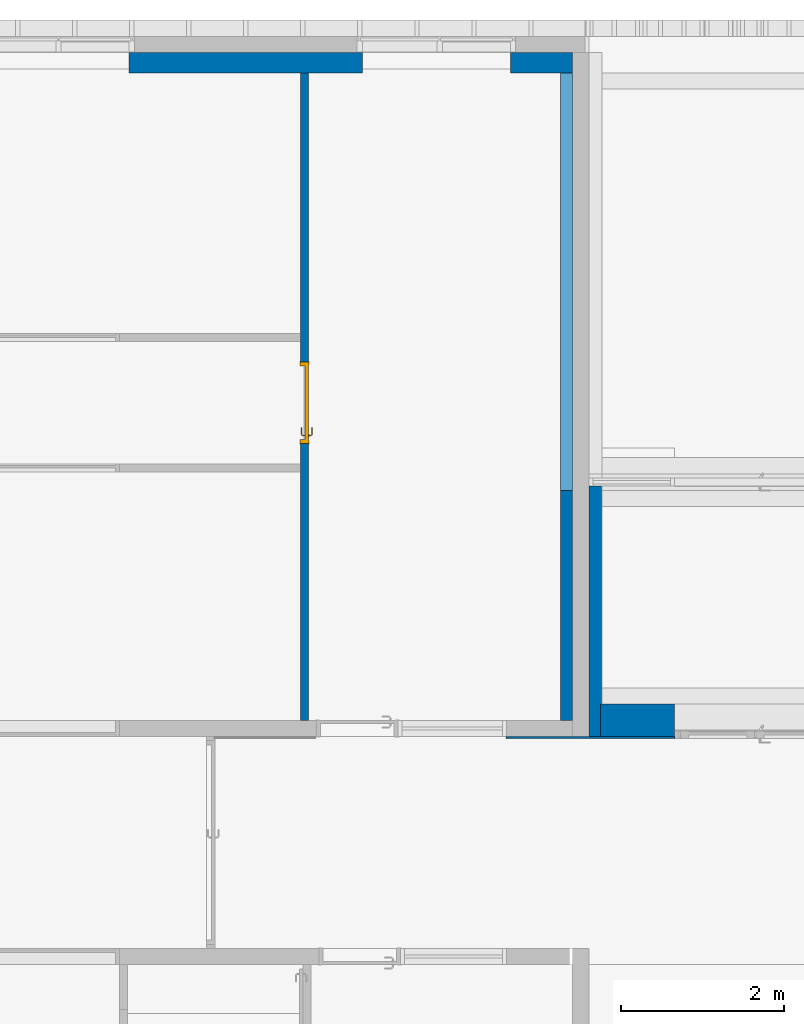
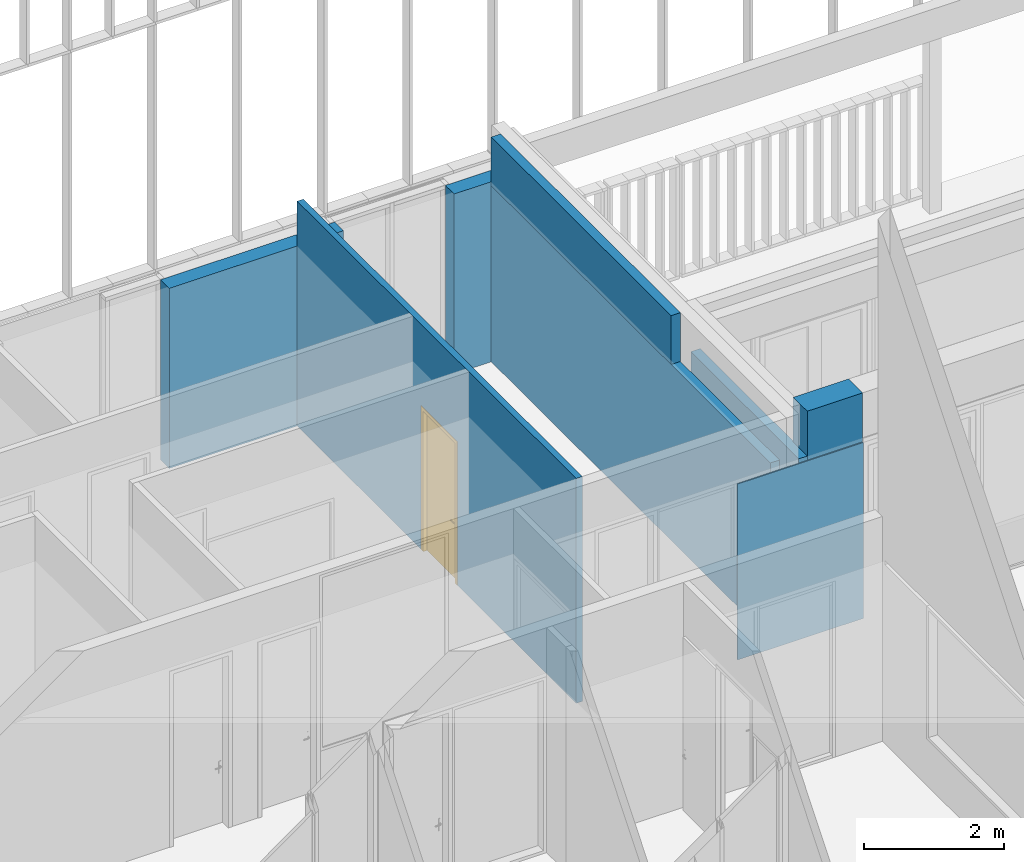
# One storey, part 157 of 240: 8 walls, 1 door, 2 openings.
"""IFC2X3 building model written with IfcOpenShell, lengths in centimetres."""

import ifcopenshell
import ifcopenshell.guid

model = None  # the IFC model being written
_history = None  # IfcOwnerHistory: only IFC2X3 demands one
_inside = {}  # id of a spatial element -> (the spatial element, [elements in it])
_under = {}  # id of a project, library or spatial element -> (it, [spatial elements below it])
_declared = {}  # id of a project -> (the project, [libraries it declares])
_typed = {}  # id of a type object -> (the type object, [elements of that type])
_made_of = {}  # id of a material, layer set ... -> (it, [elements and type objects made of it])


def new_model(schema):
    """Start an empty IFC model of exactly this schema.

    Asked for "IFC4X3", IfcOpenShell would pick the latest addendum, in which some entities
    have other attributes; the version numbers below select the first issue.
    IFC2X3 requires an IfcOwnerHistory on every rooted entity: one is made here for all.
    """
    global model, _history
    if schema == "IFC4X3":
        model = ifcopenshell.file(schema_version=(4, 3, 0, 0))
    else:
        model = ifcopenshell.file(schema=schema)
    _inside.clear()
    _under.clear()
    _declared.clear()
    _typed.clear()
    _made_of.clear()
    _history = None
    if model.schema == "IFC2X3":
        org = make("IfcOrganization", Name="unknown")
        user = make(
            "IfcPersonAndOrganization",
            ThePerson=make("IfcPerson", FamilyName="unknown"),
            TheOrganization=org,
        )
        app = make(
            "IfcApplication",
            ApplicationDeveloper=org,
            Version="unknown",
            ApplicationFullName="unknown",
            ApplicationIdentifier="unknown",
        )
        _history = make(
            "IfcOwnerHistory",
            OwningUser=user,
            OwningApplication=app,
            ChangeAction="ADDED",
            CreationDate=0,
        )
    return model


def make(cls, **values):
    """One entity of the class cls with the attributes given. An attribute that is None is left unset."""
    return model.create_entity(
        cls, **{name: value for name, value in values.items() if value is not None}
    )


def entity(cls, *values):
    """Any entity or typed value of the class cls, its attributes in the order of the schema. None: left unset."""
    e = model.create_entity(cls)
    for i, value in enumerate(values):
        if value is not None:
            e[i] = value
    return e


def rooted(cls, **values):
    """An entity with a GlobalId (a new one), such as an element, a storey or a relation."""
    return make(cls, GlobalId=ifcopenshell.guid.new(), OwnerHistory=_history, **values)


def si_unit(unit_type, name, prefix=None):
    """IfcSIUnit, for example si_unit("LENGTHUNIT", "METRE", prefix="MILLI")."""
    return make("IfcSIUnit", UnitType=unit_type, Prefix=prefix, Name=name)


def converted_unit(unit_type, name, factor, base, dimensions=None, offset=None):
    """IfcConversionBasedUnit, such as the inch: factor (a typed value) times the base unit."""
    return make(
        "IfcConversionBasedUnit"
        if offset is None
        else "IfcConversionBasedUnitWithOffset",
        ConversionOffset=offset,
        Dimensions=None
        if dimensions is None
        else entity("IfcDimensionalExponents", *dimensions),
        UnitType=unit_type,
        Name=name,
        ConversionFactor=make(
            "IfcMeasureWithUnit", ValueComponent=factor, UnitComponent=base
        ),
    )


def derived_unit(unit_type, elements):
    """IfcDerivedUnit: a product of units, each with its exponent."""
    return make(
        "IfcDerivedUnit",
        Elements=[
            make("IfcDerivedUnitElement", Unit=unit, Exponent=power)
            for unit, power in elements
        ],
        UnitType=unit_type,
    )


def assignment(units):
    """IfcUnitAssignment: the units of a project."""
    return None if units is None else make("IfcUnitAssignment", Units=units)


def point(xyz):
    """IfcCartesianPoint."""
    return None if xyz is None else make("IfcCartesianPoint", Coordinates=xyz)


def direction(xyz):
    """IfcDirection."""
    return None if xyz is None else make("IfcDirection", DirectionRatios=xyz)


def frame(location, z_axis=None, x_axis=None):
    """IfcAxis2Placement3D, a coordinate frame: its origin and axes. An axis left out is left unset."""
    return make(
        "IfcAxis2Placement3D",
        Location=point(location),
        Axis=direction(z_axis),
        RefDirection=direction(x_axis),
    )


def frame_2d(location, x_axis=None):
    """IfcAxis2Placement2D, a coordinate frame in the plane: its origin and x axis."""
    return make(
        "IfcAxis2Placement2D", Location=point(location), RefDirection=direction(x_axis)
    )


def origin():
    """The frame at (0, 0, 0) with its axes left unset."""
    return frame((0.0, 0.0, 0.0))


def place(relative_to, where):
    """IfcLocalPlacement: puts the frame where relative to a parent placement (None: the world)."""
    return make(
        "IfcLocalPlacement", PlacementRelTo=relative_to, RelativePlacement=where
    )


def context(
    kind, dimensions, precision=None, world=None, true_north=None, identifier=None
):
    """IfcGeometricRepresentationContext, for example the 3D "Model" context."""
    return make(
        "IfcGeometricRepresentationContext",
        ContextIdentifier=identifier,
        ContextType=kind,
        CoordinateSpaceDimension=dimensions,
        Precision=precision,
        WorldCoordinateSystem=world,
        TrueNorth=true_north,
    )


def subcontext(parent, identifier, kind, view, scale=None):
    """IfcGeometricRepresentationSubContext, for example "Body" below "Model"."""
    return make(
        "IfcGeometricRepresentationSubContext",
        ContextIdentifier=identifier,
        ContextType=kind,
        ParentContext=parent,
        TargetScale=scale,
        TargetView=view,
    )


def project(units=None, contexts=None):
    """IfcProject with its units and contexts."""
    return rooted(
        "IfcProject",
        Name="project",
        RepresentationContexts=contexts,
        UnitsInContext=assignment(units),
    )


def spatial(cls, under=None, at=None, **own):
    """A site, building, storey or space (cls), placed at a placement, below another one or the project."""
    s = rooted(cls, ObjectPlacement=at, **own)
    if under is not None:
        _under.setdefault(under.id(), (under, []))[1].append(s)
    return s


def polyline(points):
    """IfcPolyline through the points."""
    return make("IfcPolyline", Points=[point(p) for p in points])


def profile(cls, at=None, kind="AREA", **sizes):
    """A parametric profile (cls). Its sizes go by their IFC names, for example OverallWidth=200.0."""
    return make(cls, ProfileType=kind, Position=at, **sizes)


def rectangle(**sizes):
    """IfcRectangleProfileDef."""
    return profile("IfcRectangleProfileDef", **sizes)


def extrude(swept, where, along, depth):
    """IfcExtrudedAreaSolid: the profile swept, set in the frame where, extruded along a direction by depth."""
    return make(
        "IfcExtrudedAreaSolid",
        SweptArea=swept,
        Position=where,
        ExtrudedDirection=direction(along),
        Depth=depth,
    )


def clip(a, b, op="DIFFERENCE"):
    """IfcBooleanClippingResult: the solid a cut by the half space b."""
    return make(
        "IfcBooleanClippingResult", Operator=op, FirstOperand=a, SecondOperand=b
    )


def bounded_halfspace(plane, agree, where, boundary):
    """IfcPolygonalBoundedHalfSpace: a half space limited to a polygon's prism."""
    return make(
        "IfcPolygonalBoundedHalfSpace",
        BaseSurface=make("IfcPlane", Position=plane),
        AgreementFlag=agree,
        Position=where,
        PolygonalBoundary=boundary,
    )


def faces_of(points, faces, orient=None, outer=None):
    """IfcFace entities. A face is a list of loops; a loop is a list of indices into points, from 0.

    orient and outer hold one flag for each loop. By default every Orientation is true, the
    first loop of a face is its IfcFaceOuterBound and the others are IfcFaceBound.
    """
    made = []
    for i, loops in enumerate(faces):
        bounds = []
        for j, loop in enumerate(loops):
            is_outer = j == 0 if outer is None else outer[i][j]
            bounds.append(
                make(
                    "IfcFaceOuterBound" if is_outer else "IfcFaceBound",
                    Bound=make("IfcPolyLoop", Polygon=[points[k] for k in loop]),
                    Orientation=True if orient is None else orient[i][j],
                )
            )
        made.append(make("IfcFace", Bounds=bounds))
    return made


def faceted_brep(points, faces, orient=None, outer=None, voids=None):
    """IfcFacetedBrep: a solid bounded by flat faces; with voids (closed shells), ...WithVoids."""
    shared = [point(p) for p in points]
    hull = make("IfcClosedShell", CfsFaces=faces_of(shared, faces, orient, outer))
    if voids is None:
        return make("IfcFacetedBrep", Outer=hull)
    return make(
        "IfcFacetedBrepWithVoids",
        Outer=hull,
        Voids=[
            make(cls, CfsFaces=faces_of(shared, fs, o, b)) for cls, fs, o, b in voids
        ],
    )


def shape(context_of_items, identifier, shape_type, items):
    """IfcShapeRepresentation: the items that make up one representation, for example the "Body"."""
    return make(
        "IfcShapeRepresentation",
        ContextOfItems=context_of_items,
        RepresentationIdentifier=identifier,
        RepresentationType=shape_type,
        Items=items,
    )


def source(mapping_origin, context_of_items, identifier, shape_type, items):
    """IfcRepresentationMap: a shape defined once, which mapped items show again and again."""
    return make(
        "IfcRepresentationMap",
        MappingOrigin=mapping_origin,
        MappedRepresentation=shape(context_of_items, identifier, shape_type, items),
    )


def transform(
    local_origin,
    x_axis=None,
    y_axis=None,
    z_axis=None,
    scale=None,
    scale2=None,
    scale3=None,
    uniform=True,
):
    """IfcCartesianTransformationOperator3D, or its non-uniform kind. x_axis, y_axis, z_axis: its Axis1, 2, 3."""
    if uniform:
        return make(
            "IfcCartesianTransformationOperator3D",
            Axis1=direction(x_axis),
            Axis2=direction(y_axis),
            LocalOrigin=point(local_origin),
            Scale=scale,
            Axis3=direction(z_axis),
        )
    return make(
        "IfcCartesianTransformationOperator3DnonUniform",
        Axis1=direction(x_axis),
        Axis2=direction(y_axis),
        LocalOrigin=point(local_origin),
        Scale=scale,
        Axis3=direction(z_axis),
        Scale2=scale2,
        Scale3=scale3,
    )


def mapped(mapping_source, mapping_target):
    """IfcMappedItem: shows the shape of a source again, moved by a transform."""
    return make(
        "IfcMappedItem", MappingSource=mapping_source, MappingTarget=mapping_target
    )


def material(Name=None, Category=None):
    """IfcMaterial."""
    return make("IfcMaterial", Name=Name, Category=Category)


def material_list(materials):
    """IfcMaterialList."""
    return make("IfcMaterialList", Materials=materials)


def layer(
    of_material, thickness, ventilated=None, Name=None, Category=None, Priority=None
):
    """IfcMaterialLayer: one layer of a wall or slab, of a material (None: an air gap)."""
    return make(
        "IfcMaterialLayer",
        Material=of_material,
        LayerThickness=thickness,
        IsVentilated=ventilated,
        Name=Name,
        Category=Category,
        Priority=Priority,
    )


def layer_set(layers, Name=None):
    """IfcMaterialLayerSet."""
    return make("IfcMaterialLayerSet", MaterialLayers=layers, LayerSetName=Name)


def layer_usage(for_layer_set, set_direction, sense, offset, extent=None):
    """IfcMaterialLayerSetUsage: how a layer set lies in its element."""
    return make(
        "IfcMaterialLayerSetUsage",
        ForLayerSet=for_layer_set,
        LayerSetDirection=set_direction,
        DirectionSense=sense,
        OffsetFromReferenceLine=offset,
        ReferenceExtent=extent,
    )


def made_of(thing, what):
    """Note that an element or type object is made of a material, layer set ...; save() writes the relation."""
    if what is not None:
        _made_of.setdefault(what.id(), (what, []))[1].append(thing)
    return thing


def type_object(cls, material=None, **own):
    """A type object (cls), such as IfcWallType, which elements share."""
    return made_of(rooted(cls, **own), material)


def type_shapes(of_type, sources):
    """Give a type object the sources (RepresentationMaps) that its elements show as mapped items."""
    of_type.RepresentationMaps = sources


def element(
    cls,
    number,
    at=None,
    inside=None,
    cuts=None,
    type_object=None,
    material=None,
    context=None,
    identifier="Body",
    shape_type=None,
    held_by="IfcProductDefinitionShape",
    body=None,
    shapes=None,
    **own,
):
    """One element of the class cls, such as IfcWall. Its Tag is "e" and its number.

    at: its placement. inside: the storey or other place that contains it. cuts: it is an
    opening in that element (IfcRelVoidsElement). A single representation is given by context,
    identifier, shape_type and body (its items); several are given by shapes. held_by: the class
    of the entity that holds the representations. save() writes the other relations.
    """
    e = rooted(cls, Tag="e%d" % number, ObjectPlacement=at, **own)
    if body is not None:
        shapes = [shape(context, identifier, shape_type, body)]
    if shapes is not None:
        e.Representation = make(held_by, Representations=shapes)
    if inside is not None:
        _inside.setdefault(inside.id(), (inside, []))[1].append(e)
    if cuts is not None:
        rooted(
            "IfcRelVoidsElement", RelatingBuildingElement=cuts, RelatedOpeningElement=e
        )
    if type_object is not None:
        _typed.setdefault(type_object.id(), (type_object, []))[1].append(e)
    return made_of(e, material)


def fill(opening, filler):
    """IfcRelFillsElement: the door or window that sits in an opening."""
    return rooted(
        "IfcRelFillsElement",
        RelatingOpeningElement=opening,
        RelatedBuildingElement=filler,
    )


def aggregate(whole, parts):
    """IfcRelAggregates: a whole, such as a stair, and the parts it consists of."""
    return rooted("IfcRelAggregates", RelatingObject=whole, RelatedObjects=parts)


def save(model, path):
    """Write the relations noted so far, then the file.

    IfcRelAggregates (storeys below a building ...), IfcRelContainedInSpatialStructure (elements
    in a storey), IfcRelDefinesByType, IfcRelAssociatesMaterial and IfcRelDeclares: one each for
    every whole, place, type object, material and project.
    """
    for whole, parts in _under.values():
        aggregate(whole, parts)
    for where, things in _inside.values():
        rooted(
            "IfcRelContainedInSpatialStructure",
            RelatedElements=things,
            RelatingStructure=where,
        )
    for kind, things in _typed.values():
        rooted("IfcRelDefinesByType", RelatedObjects=things, RelatingType=kind)
    for what, things in _made_of.values():
        rooted("IfcRelAssociatesMaterial", RelatedObjects=things, RelatingMaterial=what)
    for by, libraries in _declared.values():
        rooted("IfcRelDeclares", RelatingContext=by, RelatedDefinitions=libraries)
    model.write(path)


model = new_model("IFC2X3")

# Units and contexts
model_context = context("Model", 3, precision=0.001, world=origin(), true_north=direction((6.12303176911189e-17, 1.0)))
body_context = subcontext(model_context, "Body", "Model", "MODEL_VIEW")
ifc_project = project(units=[si_unit("LENGTHUNIT", "METRE", prefix="CENTI"), si_unit("AREAUNIT", "SQUARE_METRE"), si_unit("VOLUMEUNIT", "CUBIC_METRE"), converted_unit("PLANEANGLEUNIT", "DEGREE", entity("IfcRatioMeasure", 0.0174532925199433), si_unit("PLANEANGLEUNIT", "RADIAN"), dimensions=[0, 0, 0, 0, 0, 0, 0]), si_unit("MASSUNIT", "GRAM", prefix="KILO"), derived_unit("MASSDENSITYUNIT", [(si_unit("MASSUNIT", "GRAM", prefix="KILO"), 1), (si_unit("LENGTHUNIT", "METRE"), -3)]), si_unit("TIMEUNIT", "SECOND"), si_unit("FREQUENCYUNIT", "HERTZ"), si_unit("THERMODYNAMICTEMPERATUREUNIT", "DEGREE_CELSIUS"), derived_unit("THERMALTRANSMITTANCEUNIT", [(si_unit("MASSUNIT", "GRAM", prefix="KILO"), 1), (si_unit("THERMODYNAMICTEMPERATUREUNIT", "KELVIN"), -1), (si_unit("TIMEUNIT", "SECOND"), -3)]), derived_unit("VOLUMETRICFLOWRATEUNIT", [(si_unit("LENGTHUNIT", "METRE"), 3), (si_unit("TIMEUNIT", "SECOND"), -1)]), si_unit("ELECTRICCURRENTUNIT", "AMPERE"), si_unit("ELECTRICVOLTAGEUNIT", "VOLT"), si_unit("POWERUNIT", "WATT"), si_unit("FORCEUNIT", "NEWTON", prefix="KILO"), si_unit("ILLUMINANCEUNIT", "LUX"), si_unit("LUMINOUSFLUXUNIT", "LUMEN"), si_unit("LUMINOUSINTENSITYUNIT", "CANDELA"), derived_unit("USERDEFINED", [(si_unit("MASSUNIT", "GRAM", prefix="KILO"), -1), (si_unit("LENGTHUNIT", "METRE"), -2), (si_unit("TIMEUNIT", "SECOND"), 3), (si_unit("LUMINOUSFLUXUNIT", "LUMEN"), 1)]), derived_unit("LINEARVELOCITYUNIT", [(si_unit("LENGTHUNIT", "METRE"), 1), (si_unit("TIMEUNIT", "SECOND"), -1)]), si_unit("PRESSUREUNIT", "PASCAL"), derived_unit("USERDEFINED", [(si_unit("LENGTHUNIT", "METRE"), -2), (si_unit("MASSUNIT", "GRAM", prefix="KILO"), 1), (si_unit("TIMEUNIT", "SECOND"), -2)])], contexts=[model_context])

# Site, building, storey
site_placement = place(None, frame((-2781.94577612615, 7442.24238424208, 0.0)))
site = spatial("IfcSite", under=ifc_project, at=site_placement, Name="Default", CompositionType="ELEMENT")
building_placement = place(site_placement, origin())
building = spatial("IfcBuilding", under=site, at=building_placement, CompositionType="ELEMENT")
storey_placement = place(building_placement, origin())
storey = spatial("IfcBuildingStorey", under=building, at=storey_placement, Name="N00 - COO", CompositionType="ELEMENT", Elevation=0.0)

# Walls
ifc_material_1 = material(Name="01 - Maçonnerie")
ifc_layer_1 = layer(ifc_material_1, 25.0)
ifc_layer_set_1 = layer_set([ifc_layer_1], Name="Mur de base:04 - Structure - béton - 25cm")
ifc_layer_usage_1 = layer_usage(ifc_layer_set_1, "AXIS2", "NEGATIVE", 12.5)
wall_type_1 = type_object("IfcWallType", Name="Mur de base:04 - Structure - béton - 25cm", PredefinedType="STANDARD", material=ifc_layer_set_1)
wall_1_placement = place(building_placement, frame((-5046.24987760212, -2.49999999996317, 0.0), z_axis=(0.0, 0.0, 1.0), x_axis=(-1.0, 0.0, 0.0)))
element("IfcWallStandardCase", 1, at=wall_1_placement, inside=storey, type_object=wall_type_1, material=ifc_layer_usage_1, Name="Mur de base:04 - Structure - béton - 25cm", ObjectType="Mur de base:04 - Structure - béton - 25cm", context=body_context, shape_type="SweptSolid", body=[
    extrude(rectangle(XDim=286.500000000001, YDim=25.0, at=frame_2d((143.25, 0.0), x_axis=(-1.0, 0.0))), origin(), (0.0, 0.0, 1.0), 313.0),
])
ifc_layer_usage_2 = layer_usage(ifc_layer_set_1, "AXIS2", "NEGATIVE", 12.5)
wall_2_placement = place(building_placement, frame((-4787.99987760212, -2.499999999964, 0.0), z_axis=(0.0, 0.0, 1.0), x_axis=(-1.0, 0.0, 0.0)))
element("IfcWallStandardCase", 2, at=wall_2_placement, inside=storey, type_object=wall_type_1, material=ifc_layer_usage_2, Name="Mur de base:04 - Structure - béton - 25cm", ObjectType="Mur de base:04 - Structure - béton - 25cm", context=body_context, shape_type="SweptSolid", body=[
    extrude(rectangle(XDim=76.3, YDim=25.0, at=frame_2d((38.15, 1.77635683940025e-15), x_axis=(-1.0, 0.0))), origin(), (0.0, 0.0, 1.0), 313.0),
])
ifc_material_2 = material(Name="00 - Isolant")
ifc_layer_2 = layer(ifc_material_2, 14.0)
ifc_material_3 = material(Name="01 - Enduit/Plâtre")
ifc_layer_3 = layer(ifc_material_3, 1.3)
ifc_layer_set_2 = layer_set([ifc_layer_2, ifc_layer_3], Name="Mur de base:04 - Parement -  isolant 14 cm + BA13")
ifc_layer_usage_3 = layer_usage(ifc_layer_set_2, "AXIS2", "POSITIVE", -7.65)
wall_type_2 = type_object("IfcWallType", Name="Mur de base:04 - Parement -  isolant 14 cm + BA13", PredefinedType="STANDARD", material=ifc_layer_set_2)
wall_3_placement = place(building_placement, frame((-4795.64987760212, -527.548500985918, 306.0), z_axis=(0.0, 0.0, 1.0), x_axis=(0.0, 1.0, 0.0)))
element("IfcWallStandardCase", 3, at=wall_3_placement, inside=storey, type_object=wall_type_2, material=ifc_layer_usage_3, Name="Mur de base:04 - Parement -  isolant 14 cm + BA13", ObjectType="Mur de base:04 - Parement -  isolant 14 cm + BA13", context=body_context, shape_type="SweptSolid", body=[
    extrude(rectangle(XDim=512.548500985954, YDim=15.3, at=frame_2d((256.274250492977, 6.66133814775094e-15), x_axis=(-1.0, 0.0))), origin(), (0.0, 0.0, 1.0), 85.0000000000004),
])

# Wall, opening
ifc_layer_4 = layer(ifc_material_1, 40.0)
ifc_layer_set_3 = layer_set([ifc_layer_4], Name="Mur de base:04 - Structure - Béton - 40")
ifc_layer_usage_4 = layer_usage(ifc_layer_set_3, "AXIS2", "NEGATIVE", 20.0)
wall_type_3 = type_object("IfcWallType", Name="Mur de base:04 - Structure - Béton - 40", PredefinedType="STANDARD", material=ifc_layer_set_3)
wall_4_placement = place(storey_placement, frame((-4662.75692494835, -810.048500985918, 0.0), z_axis=(0.0, 0.0, 1.0), x_axis=(-1.0, 0.0, 0.0)))
wall_4 = element("IfcWallStandardCase", 4, at=wall_4_placement, inside=storey, type_object=wall_type_3, material=ifc_layer_usage_4, Name="Mur de base:04 - Structure - Béton - 40", ObjectType="Mur de base:04 - Structure - Béton - 40", context=body_context, shape_type="Clipping", body=[
    clip(extrude(rectangle(XDim=91.2429526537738, YDim=40.0, at=frame_2d((45.6214763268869, 0.0), x_axis=(-1.0, 0.0))), origin(), (0.0, 0.0, 1.0), 391.0), bounded_halfspace(frame((0.0, -20.0, 391.0), z_axis=(0.0, 0.0, -1.0), x_axis=(0.0, -1.0, 0.0)), True, frame((0.0, -20.0, 391.0)), polyline([(0.0, 0.0), (91.2429526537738, 0.0), (91.2429526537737, 40.0), (0.0, 40.0), (0.0, 0.0)]))),
])
opening_1_placement = place(wall_4_placement, origin())
element("IfcOpeningElement", 5, at=opening_1_placement, cuts=wall_4, Name="Mur de base:04 - Structure - Béton - 40", ObjectType="Opening", context=body_context, shape_type="SweptSolid", body=[
    extrude(rectangle(XDim=321.0, YDim=192.75704526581, at=frame_2d((0.0, 4.33431068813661e-13), x_axis=(1.0, 0.0))), frame((-96.3785226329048, 11.8999999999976, 145.5), z_axis=(0.0, 1.0, 0.0), x_axis=(0.0, 0.0, -1.0)), (0.0, 0.0, 1.0), 61.1877456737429),
])

# Wall, opening, door
ifc_layer_5 = layer(ifc_material_3, 1.3)
ifc_layer_6 = layer(ifc_material_2, 7.4)
ifc_layer_7 = layer(ifc_material_3, 1.3)
ifc_layer_set_4 = layer_set([ifc_layer_5, ifc_layer_6, ifc_layer_7], Name="Mur de base:06 - cloisons - Ba13 10cm")
ifc_layer_usage_5 = layer_usage(ifc_layer_set_4, "AXIS2", "NEGATIVE", 5.0)
wall_type_4 = type_object("IfcWallType", Name="Mur de base:06 - cloisons - Ba13 10cm", PredefinedType="STANDARD", material=ifc_layer_set_4)
wall_5_placement = place(building_placement, frame((-5117.49987760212, -15.0, 0.0), z_axis=(0.0, 0.0, 1.0), x_axis=(0.0, -1.0, 0.0)))
wall_5 = element("IfcWallStandardCase", 6, at=wall_5_placement, inside=storey, type_object=wall_type_4, material=ifc_layer_usage_5, Name="Mur de base:06 - cloisons - Ba13 10cm", ObjectType="Mur de base:06 - cloisons - Ba13 10cm", context=body_context, shape_type="Clipping", body=[
    clip(extrude(rectangle(XDim=795.048500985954, YDim=9.99999999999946, at=frame_2d((397.524250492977, -2.22044604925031e-15), x_axis=(-1.0, 0.0))), origin(), (0.0, 0.0, 1.0), 391.0), bounded_halfspace(frame((0.0, -5.0, 391.0), z_axis=(0.0, 0.0, -1.0), x_axis=(-1.0, 0.0, 0.0)), True, frame((0.0, -5.0, 391.0)), polyline([(0.0, 0.0), (320.0, 0.0), (330.0, 0.0), (480.0, 0.0), (490.0, 0.0), (795.048500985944, 0.0), (795.048500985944, 10.0), (0.0, 10.0), (0.0, 0.0)]))),
])
opening_2_placement = place(wall_5_placement, frame((355.0, -5.0, 0.0)))
opening_2 = element("IfcOpeningElement", 7, at=opening_2_placement, cuts=wall_5, Name="Int. Simple:PP simple (0.93m x 2.50m):1", ObjectType="Opening", context=body_context, shape_type="SweptSolid", body=[
    extrude(rectangle(XDim=248.500000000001, YDim=99.9999999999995, at=frame_2d((124.250000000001, 49.9999999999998), x_axis=(1.0, 0.0))), frame((0.0, 0.0, 0.0), z_axis=(0.0, 1.0, 0.0), x_axis=(0.0, 0.0, 1.0)), (0.0, 0.0, 1.0), 10.0),
])
ifc_material_4 = material(Name="Finition Peinture - Blanc satiné")
ifc_material_5 = material(Name="Bois - Panneau de porte")
ifc_material_6 = material(Name="Bois - Cadre de porte")
ifc_material_list_1 = material_list([ifc_material_4, ifc_material_5, ifc_material_6])
ifc_material_list_2 = material_list([ifc_material_4, ifc_material_5, ifc_material_6])
door_style = type_object("IfcDoorStyle", Name="PP simple (0.93m x 2.50m)", ConstructionType="NOTDEFINED", OperationType="SINGLE_SWING_LEFT", ParameterTakesPrecedence=False, Sizeable=False, material=ifc_material_list_2)
shared_shape = source(origin(), body_context, "Body", "Brep", [
    faceted_brep([(10.5352761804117, -0.500000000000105, 86.6003983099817), (11.5000000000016, -0.500000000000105, 87.0), (11.5000000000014, -0.500000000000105, 108.0), (10.5352761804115, -0.500000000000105, 108.399601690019), (9.50000000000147, -0.500000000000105, 108.535898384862), (8.46472381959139, -0.500000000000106, 108.399601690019), (7.50000000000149, -0.500000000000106, 108.0), (7.50000000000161, -0.500000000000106, 87.0), (8.46472381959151, -0.500000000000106, 86.6003983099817), (9.50000000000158, -0.500000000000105, 86.464101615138), (10.5352761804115, 0.0, 108.399601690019), (11.5000000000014, 0.0, 108.0), (11.5000000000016, 0.0, 87.0), (10.5352761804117, 0.0, 86.6003983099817), (9.50000000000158, 0.0, 86.464101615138), (8.46472381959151, 0.0, 86.6003983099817), (7.50000000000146, 0.0, 87.0), (7.50000000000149, 0.0, 108.0), (8.46472381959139, 0.0, 108.399601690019), (9.50000000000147, 0.0, 108.535898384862)], [[[0, 1, 2, 3, 4, 5, 6, 7, 8, 9]], [[10, 11, 12, 13, 14, 15, 16, 17, 18, 19]], [[16, 15, 8, 7]], [[8, 15, 14, 9]], [[14, 13, 0, 9]], [[13, 12, 1, 0]], [[2, 1, 12, 11]], [[11, 10, 3, 2]], [[3, 10, 19, 4]], [[19, 18, 5, 4]], [[18, 17, 6, 5]], [[7, 6, 17, 16]]]),
    faceted_brep([(10.5352761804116, 4.0, 86.6003983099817), (11.5000000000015, 4.0, 87.0), (11.5000000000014, 4.0, 108.0), (10.5352761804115, 4.0, 108.399601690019), (9.50000000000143, 4.0, 108.535898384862), (8.46472381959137, 4.0, 108.399601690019), (7.50000000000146, 4.0, 108.0), (7.50000000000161, 4.0, 87.0), (8.46472381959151, 4.0, 86.6003983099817), (9.50000000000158, 4.0, 86.464101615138), (10.5352761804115, 4.49999999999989, 108.399601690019), (11.5000000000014, 4.49999999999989, 108.0), (11.5000000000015, 4.49999999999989, 87.0), (10.5352761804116, 4.49999999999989, 86.6003983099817), (9.50000000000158, 4.49999999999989, 86.464101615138), (8.46472381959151, 4.49999999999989, 86.6003983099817), (7.50000000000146, 4.49999999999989, 87.0), (7.50000000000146, 4.49999999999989, 108.0), (8.46472381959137, 4.49999999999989, 108.399601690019), (9.50000000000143, 4.49999999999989, 108.535898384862)], [[[0, 1, 2, 3, 4, 5, 6, 7, 8, 9]], [[10, 11, 12, 13, 14, 15, 16, 17, 18, 19]], [[11, 10, 3, 2]], [[3, 10, 19, 4]], [[19, 18, 5, 4]], [[18, 17, 6, 5]], [[7, 6, 17, 16]], [[16, 15, 8, 7]], [[8, 15, 14, 9]], [[14, 13, 0, 9]], [[13, 12, 1, 0]], [[2, 1, 12, 11]]]),
    faceted_brep([(9.29747013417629, -0.500000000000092, 100.778044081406), (9.70252986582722, -0.50000000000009, 100.778044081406), (10.1000000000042, -0.500000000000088, 100.699999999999), (10.1000000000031, -0.500000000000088, 99.3000000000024), (9.7025298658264, -0.50000000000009, 99.2219559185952), (9.29747013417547, -0.500000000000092, 99.221955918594), (8.8999999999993, -0.500000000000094, 99.2999999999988), (8.89999999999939, -0.500000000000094, 100.7), (8.89999999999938, -3.26509507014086, 100.7), (9.29747013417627, -3.10045754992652, 100.778044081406), (10.9023585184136, -4.70534593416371, 100.778044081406), (11.0701397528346, -4.30028620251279, 100.778044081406), (9.7025298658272, -2.93267631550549, 100.778044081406), (10.1000000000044, -2.76803879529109, 100.7), (10.1000000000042, -2.76803879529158, 99.3000000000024), (9.7025298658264, -2.93267631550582, 99.2219559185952), (11.0701397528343, -4.30028620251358, 99.2219559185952), (10.9023585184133, -4.70534593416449, 99.221955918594), (9.29747013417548, -3.10045754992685, 99.221955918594), (8.89999999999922, -3.26509507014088, 99.2999999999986), (10.7377209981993, -5.10281606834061, 100.7), (11.2347772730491, -3.90281606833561, 100.7), (11.2347772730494, -3.90281606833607, 99.3000000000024), (10.7377209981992, -5.10281606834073, 99.2999999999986), (19.5018640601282, -5.10281606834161, 99.2999999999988), (19.5018640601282, -4.70534593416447, 99.221955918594), (19.5018640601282, -4.30028620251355, 99.2219559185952), (19.5018640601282, -3.9028160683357, 99.3000000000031), (19.5018640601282, -3.90281606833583, 100.7), (19.5018640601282, -4.30028620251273, 100.778044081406), (19.5018640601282, -4.70534593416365, 100.778044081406), (19.5018640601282, -5.10281606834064, 100.699999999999), (14.7307697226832, -5.10281606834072, 100.7), (15.2860019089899, -4.5028160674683, 100.78786867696), (15.3683206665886, -3.9028160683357, 100.7), (15.3683206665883, -3.9028160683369, 99.3000000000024), (15.2860018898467, -4.50281607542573, 99.2121313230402), (14.7307700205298, -5.10281606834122, 99.2999999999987)], [[[0, 1, 2, 3, 4, 5, 6, 7]], [[8, 9, 0, 7]], [[9, 10, 11, 12, 1, 0]], [[12, 13, 2, 1]], [[3, 2, 13, 14]], [[14, 15, 4, 3]], [[15, 16, 17, 18, 5, 4]], [[18, 19, 6, 5]], [[7, 6, 19, 8]], [[20, 10, 9, 8]], [[11, 21, 13, 12]], [[14, 13, 21, 22]], [[22, 16, 15, 14]], [[17, 23, 19, 18]], [[8, 19, 23, 20]], [[24, 25, 26, 27, 28, 29, 30, 31]], [[32, 30, 33]], [[31, 30, 32]], [[10, 20, 32]], [[33, 34, 11]], [[21, 11, 34]], [[34, 29, 28]], [[30, 29, 33]], [[29, 34, 33]], [[10, 32, 33]], [[10, 33, 11]], [[22, 21, 34, 28, 27, 35]], [[35, 26, 36]], [[37, 36, 25]], [[22, 35, 16]], [[35, 27, 26]], [[24, 37, 25]], [[23, 17, 37]], [[37, 17, 36]], [[17, 16, 36]], [[16, 35, 36]], [[25, 36, 26]], [[20, 23, 37, 24, 31, 32]]]),
    faceted_brep([(9.29747013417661, 4.49999999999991, 100.778044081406), (8.89999999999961, 4.4999999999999, 100.7), (8.89999999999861, 4.4999999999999, 99.2999999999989), (9.29747013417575, 4.49999999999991, 99.221955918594), (9.70252986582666, 4.49999999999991, 99.2219559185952), (10.1000000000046, 4.49999999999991, 99.3000000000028), (10.1000000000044, 4.49999999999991, 100.7), (9.70252986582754, 4.49999999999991, 100.778044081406), (10.1000000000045, 6.7485204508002, 99.3000000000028), (10.1000000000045, 6.74852045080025, 100.7), (9.70252986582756, 6.91315797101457, 100.778044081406), (11.083890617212, 8.29451872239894, 100.778044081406), (10.916109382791, 8.69957845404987, 100.778044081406), (9.29747013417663, 7.0809392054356, 100.778044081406), (8.89999999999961, 7.24557672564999, 100.7), (8.89999999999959, 7.2455767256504, 99.2999999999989), (9.29747013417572, 7.08093920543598, 99.221955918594), (10.9161093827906, 8.69957845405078, 99.221955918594), (11.0838906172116, 8.29451872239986, 99.2219559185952), (9.70252986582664, 6.91315797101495, 99.2219559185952), (11.2485281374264, 7.89704858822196, 99.3000000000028), (11.2485281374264, 7.89704858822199, 100.7), (10.7514718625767, 9.09704858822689, 100.7), (10.7514718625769, 9.0970485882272, 99.2999999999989), (19.5045783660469, 7.89704858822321, 99.3000000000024), (19.5045783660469, 8.29451872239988, 99.2219559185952), (19.5045783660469, 8.6995784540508, 99.221955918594), (19.5045783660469, 9.09704858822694, 99.2999999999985), (19.5045783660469, 9.09704858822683, 100.7), (19.5045783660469, 8.69957845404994, 100.778044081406), (19.5045783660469, 8.29451872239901, 100.778044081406), (19.5045783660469, 7.89704858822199, 100.7), (15.3765520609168, 7.89704858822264, 99.3000000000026), (15.3765532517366, 7.89704858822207, 100.7), (15.294234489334, 8.49704858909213, 100.78786867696), (14.7445205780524, 9.09704858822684, 100.7), (14.7445204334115, 9.09704858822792, 99.2999999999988), (15.2942345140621, 8.49704858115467, 99.2121313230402)], [[[0, 1, 2, 3, 4, 5, 6, 7]], [[6, 5, 8, 9]], [[9, 10, 7, 6]], [[10, 11, 12, 13, 0, 7]], [[13, 14, 1, 0]], [[2, 1, 14, 15]], [[15, 16, 3, 2]], [[16, 17, 18, 19, 4, 3]], [[19, 8, 5, 4]], [[9, 8, 20, 21]], [[21, 11, 10, 9]], [[12, 22, 14, 13]], [[15, 14, 22, 23]], [[23, 17, 16, 15]], [[18, 20, 8, 19]], [[24, 25, 26, 27, 28, 29, 30, 31]], [[21, 20, 32, 24, 31, 33]], [[33, 30, 34]], [[35, 34, 29]], [[21, 33, 11]], [[33, 31, 30]], [[28, 35, 29]], [[22, 12, 35]], [[35, 12, 34]], [[12, 11, 34]], [[11, 33, 34]], [[29, 34, 30]], [[22, 35, 28, 27, 36, 23]], [[36, 26, 37]], [[27, 26, 36]], [[17, 23, 36]], [[37, 32, 18]], [[20, 18, 32]], [[32, 25, 24]], [[26, 25, 37]], [[25, 32, 37]], [[17, 36, 37]], [[17, 37, 18]]]),
    faceted_brep([(3.50000000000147, 4.0, 245.0), (96.5000000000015, 4.0, 245.0), (96.5000000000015, 4.0, 0.0), (3.50000000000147, 4.0, 0.0), (3.50000000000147, 0.0, 245.0), (3.50000000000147, 0.0, 0.0), (96.5000000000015, 0.0, 0.0), (96.5000000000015, 0.0, 245.0)], [[[0, 1, 2, 3]], [[4, 5, 6, 7]], [[1, 0, 4, 7]], [[2, 1, 7, 6]], [[3, 2, 6, 5]], [[0, 3, 5, 4]]]),
    faceted_brep([(0.0, 10.0, 0.0), (-1.50000000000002, 10.0, 0.0), (-1.50000000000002, 10.5000000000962, 0.0), (5.0, 10.5000000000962, 0.0), (5.0, 4.0, 0.0), (3.50000000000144, 4.0, 0.0), (3.50000000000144, -0.500000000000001, 0.0), (-1.50000000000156, -0.500000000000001, 0.0), (-1.50000000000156, 0.0, 0.0), (0.0, 0.0, 0.0), (0.0, 0.0, 248.500000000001), (0.0, 10.0, 248.500000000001), (100.0, 10.0, 248.500000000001), (100.0, 10.0, 0.0), (101.5, 10.0, 0.0), (101.5, 10.0, 250.0), (-1.50000000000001, 10.0, 250.0), (5.0, 10.5000000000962, 243.5), (5.0, 4.0, 243.5), (95.0, 4.0, 243.5), (95.0, 4.0, 0.0), (96.499999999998, 4.0, 0.0), (96.499999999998, 4.0, 245.0), (3.50000000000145, 4.0, 245.0), (100.0, 0.0, 248.500000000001), (100.0, 0.0, 0.0), (101.500000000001, 0.0, 0.0), (101.500000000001, -0.500000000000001, 0.0), (96.499999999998, -0.500000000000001, 0.0), (95.0, 10.5000000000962, 0.0), (101.5, 10.5000000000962, 0.0), (95.0, 10.5000000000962, 243.5), (3.50000000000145, -0.500000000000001, 245.0), (96.499999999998, -0.500000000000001, 245.0), (101.500000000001, -0.500000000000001, 250.0), (-1.50000000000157, -0.500000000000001, 250.0), (-1.50000000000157, 0.0, 250.0), (101.500000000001, 0.0, 250.0), (-1.50000000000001, 10.5000000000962, 250.0), (101.5, 10.5000000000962, 250.0)], [[[0, 1, 2, 3, 4, 5, 6, 7, 8, 9]], [[0, 9, 10, 11]], [[1, 0, 11, 12, 13, 14, 15, 16]], [[3, 17, 18, 4]], [[5, 4, 18, 19, 20, 21, 22, 23]], [[12, 24, 25, 13]], [[13, 25, 26, 27, 28, 21, 20, 29, 30, 14]], [[19, 31, 29, 20]], [[11, 10, 24, 12]], [[18, 17, 31, 19]], [[5, 23, 32, 6]], [[7, 6, 32, 33, 28, 27, 34, 35]], [[8, 7, 35, 36]], [[9, 8, 36, 37, 26, 25, 24, 10]], [[2, 1, 16, 38]], [[3, 2, 38, 39, 30, 29, 31, 17]], [[33, 22, 21, 28]], [[37, 34, 27, 26]], [[39, 15, 14, 30]], [[32, 23, 22, 33]], [[36, 35, 34, 37]], [[38, 16, 15, 39]]]),
])
type_shapes(door_style, [shared_shape])
door_placement = place(opening_2_placement, frame((100.0, 10.0, 0.0), z_axis=(0.0, 0.0, 1.0), x_axis=(-1.0, 0.0, 0.0)))
door = element("IfcDoor", 8, at=door_placement, inside=storey, type_object=door_style, material=ifc_material_list_1, Name="Int. Simple:PP simple (0.93m x 2.50m)", ObjectType="Int. Simple:PP simple (0.93m x 2.50m)", OverallHeight=248.500000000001, OverallWidth=99.9999999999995, context=body_context, shape_type="MappedRepresentation", body=[
    mapped(shared_shape, transform((0.0, 0.0, 0.0), scale=1.0)),
])
fill(opening_2, door)

# Walls
ifc_material_7 = material(Name="Pin")
ifc_layer_8 = layer(ifc_material_7, 2.0)
ifc_layer_set_5 = layer_set([ifc_layer_8], Name="Mur de base:06 - habillage bois collée 2cm")
ifc_layer_usage_6 = layer_usage(ifc_layer_set_5, "AXIS2", "NEGATIVE", 1.0)
wall_type_5 = type_object("IfcWallType", Name="Mur de base:06 - habillage bois collée 2cm", PredefinedType="STANDARD", material=ifc_layer_set_5)
wall_6_placement = place(storey_placement, frame((-4869.49987760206, -831.048500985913, 0.0)))
element("IfcWallStandardCase", 9, at=wall_6_placement, inside=storey, type_object=wall_type_5, material=ifc_layer_usage_6, Name="Mur de base:06 - habillage bois collée 2cm", ObjectType="Mur de base:06 - habillage bois collée 2cm", context=body_context, shape_type="SweptSolid", body=[
    extrude(rectangle(XDim=206.742952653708, YDim=1.99999999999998, at=frame_2d((103.371476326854, -2.55351295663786e-15), x_axis=(-1.0, 0.0))), origin(), (0.0, 0.0, 1.0), 306.0),
])
ifc_layer_9 = layer(ifc_material_3, 1.3)
ifc_layer_10 = layer(ifc_material_2, 14.0)
ifc_layer_set_6 = layer_set([ifc_layer_9, ifc_layer_10], Name="Mur de base:04 - Parement - ITI 14cm")
ifc_layer_usage_7 = layer_usage(ifc_layer_set_6, "AXIS2", "POSITIVE", -7.65)
wall_type_6 = type_object("IfcWallType", Name="Mur de base:04 - Parement - ITI 14cm", PredefinedType="STANDARD", material=ifc_layer_set_6)
wall_7_placement = place(building_placement, frame((-4795.64987760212, -15.0, 0.0), z_axis=(0.0, 0.0, 1.0), x_axis=(0.0, -1.0, 0.0)))
element("IfcWallStandardCase", 10, at=wall_7_placement, inside=storey, type_object=wall_type_6, material=ifc_layer_usage_7, Name="Mur de base:04 - Parement - ITI 14cm", ObjectType="Mur de base:04 - Parement - ITI 14cm", context=body_context, shape_type="SweptSolid", body=[
    extrude(rectangle(XDim=795.048500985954, YDim=15.3, at=frame_2d((397.524250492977, -2.04725125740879e-13), x_axis=(-1.0, 0.0))), origin(), (0.0, 0.0, 1.0), 306.0),
])
ifc_layer_usage_8 = layer_usage(ifc_layer_set_6, "AXIS2", "POSITIVE", -7.65)
wall_8_placement = place(building_placement, frame((-4760.34987760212, -830.048500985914, 0.0), z_axis=(0.0, 0.0, 1.0), x_axis=(0.0, 1.0, 0.0)))
element("IfcWallStandardCase", 11, at=wall_8_placement, inside=storey, type_object=wall_type_6, material=ifc_layer_usage_8, Name="Mur de base:04 - Parement - ITI 14cm", ObjectType="Mur de base:04 - Parement - ITI 14cm", context=body_context, shape_type="SweptSolid", body=[
    extrude(rectangle(XDim=307.499999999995, YDim=15.3, at=frame_2d((153.749999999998, 6.66133814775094e-15), x_axis=(-1.0, 0.0))), origin(), (0.0, 0.0, 1.0), 313.0),
])

save(model, "model.ifc")
